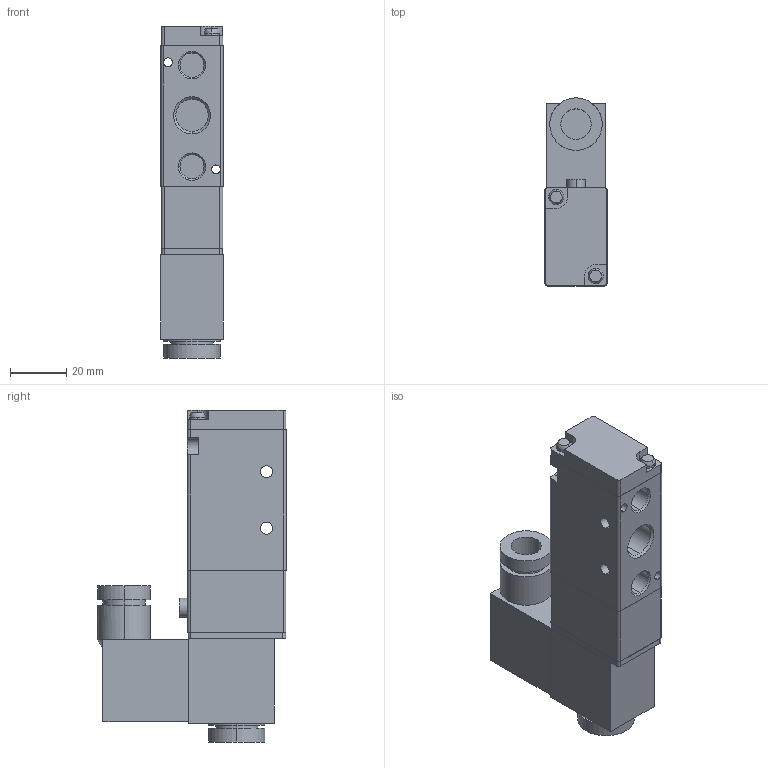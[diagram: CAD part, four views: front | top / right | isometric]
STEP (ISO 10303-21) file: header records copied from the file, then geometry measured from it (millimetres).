
FILE_DESCRIPTION (( 'STEP AP203' ), '1' );
FILE_NAME ('VB5-S02.STEP', '2020-04-15T17:01:10', ( '' ), ( '' ), 'SwSTEP 2.0', 'SolidWorks 2019', '' );
FILE_SCHEMA (( 'CONFIG_CONTROL_DESIGN' ));
Length unit declared in the file: millimetre
Products named in the file (1): VB5-S02
Bounding box: 22 x 66.8 x 117.8 mm (x, y, z)
Volume: 99952.6 mm3; surface area: 22332.8 mm2
Topology: 1 solids, 1 shells, 136 faces, 342 edges, 220 vertices
Faces by surface type: plane 61, cylinder 60, cone 11, sphere 4
Entity records: 4207 total; most frequent: DIRECTION 753, CARTESIAN_POINT 749, ORIENTED_EDGE 672, EDGE_CURVE 336, AXIS2_PLACEMENT_3D 283, VERTEX_POINT 218, LINE 187, VECTOR 187
